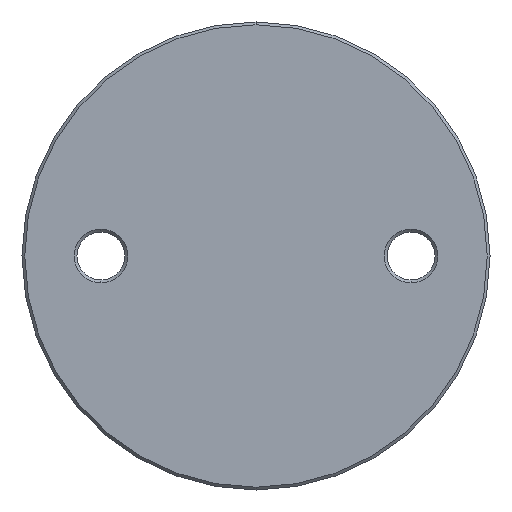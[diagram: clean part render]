
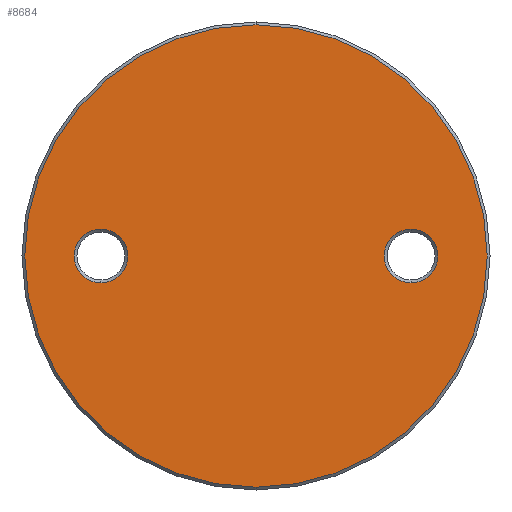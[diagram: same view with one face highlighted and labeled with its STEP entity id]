
A CAD part, front view. The second image highlights one B-rep face of the part: STEP entity #8684.
In plain terms, the highlighted planar face has unit normal (0, -1, 0).
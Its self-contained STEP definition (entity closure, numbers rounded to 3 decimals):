
#167 = EDGE_LOOP ( 'NONE', ( #3683, #472 ) ) ;
#465 = CIRCLE ( 'NONE', #9820, 41. ) ;
#472 = ORIENTED_EDGE ( 'NONE', *, *, #5691, .T. ) ;
#542 = VERTEX_POINT ( 'NONE', #5740 ) ;
#991 = CIRCLE ( 'NONE', #2733, 4.75 ) ;
#1003 = EDGE_LOOP ( 'NONE', ( #3837, #9707 ) ) ;
#1008 = ORIENTED_EDGE ( 'NONE', *, *, #3738, .T. ) ;
#1568 = VERTEX_POINT ( 'NONE', #7812 ) ;
#1743 = DIRECTION ( 'NONE',  ( 0., -1., 0. ) ) ;
#1946 = DIRECTION ( 'NONE',  ( 0., 0., -1. ) ) ;
#1964 = CARTESIAN_POINT ( 'NONE',  ( -27.5, -3., 4.75 ) ) ;
#2053 = DIRECTION ( 'NONE',  ( 0., 0., -1. ) ) ;
#2077 = VERTEX_POINT ( 'NONE', #2353 ) ;
#2125 = CARTESIAN_POINT ( 'NONE',  ( 27.5, -3., 0. ) ) ;
#2155 = DIRECTION ( 'NONE',  ( 0., 1., 0. ) ) ;
#2185 = CARTESIAN_POINT ( 'NONE',  ( -27.5, -3., 0. ) ) ;
#2204 = DIRECTION ( 'NONE',  ( 0., 0., -1. ) ) ;
#2353 = CARTESIAN_POINT ( 'NONE',  ( 0., -3., 41. ) ) ;
#2560 = VERTEX_POINT ( 'NONE', #9213 ) ;
#2605 = AXIS2_PLACEMENT_3D ( 'NONE', #9838, #4524, #2204 ) ;
#2733 = AXIS2_PLACEMENT_3D ( 'NONE', #4755, #5476, #9241 ) ;
#2812 = AXIS2_PLACEMENT_3D ( 'NONE', #8085, #4228, #1946 ) ;
#2861 = VERTEX_POINT ( 'NONE', #5117 ) ;
#3119 = CIRCLE ( 'NONE', #7944, 4.75 ) ;
#3631 = EDGE_LOOP ( 'NONE', ( #1008, #9935 ) ) ;
#3683 = ORIENTED_EDGE ( 'NONE', *, *, #6992, .T. ) ;
#3738 = EDGE_CURVE ( 'NONE', #2077, #2861, #6837, .T. ) ;
#3837 = ORIENTED_EDGE ( 'NONE', *, *, #9030, .T. ) ;
#4107 = DIRECTION ( 'NONE',  ( 0., 0., -1. ) ) ;
#4228 = DIRECTION ( 'NONE',  ( 0., 1., 0. ) ) ;
#4524 = DIRECTION ( 'NONE',  ( 0., -1., 0. ) ) ;
#4642 = CIRCLE ( 'NONE', #7674, 4.75 ) ;
#4702 = CIRCLE ( 'NONE', #2812, 4.75 ) ;
#4755 = CARTESIAN_POINT ( 'NONE',  ( -27.5, -3., 0. ) ) ;
#5117 = CARTESIAN_POINT ( 'NONE',  ( 0., -3., -41. ) ) ;
#5476 = DIRECTION ( 'NONE',  ( 0., 1., 0. ) ) ;
#5581 = CARTESIAN_POINT ( 'NONE',  ( 0., -3., 0. ) ) ;
#5691 = EDGE_CURVE ( 'NONE', #6038, #1568, #4642, .T. ) ;
#5740 = CARTESIAN_POINT ( 'NONE',  ( 27.5, -3., 4.75 ) ) ;
#5889 = FACE_BOUND ( 'NONE', #167, .T. ) ;
#6038 = VERTEX_POINT ( 'NONE', #1964 ) ;
#6683 = CARTESIAN_POINT ( 'NONE',  ( 0., -3., 0. ) ) ;
#6837 = CIRCLE ( 'NONE', #9718, 41. ) ;
#6992 = EDGE_CURVE ( 'NONE', #1568, #6038, #991, .T. ) ;
#7555 = DIRECTION ( 'NONE',  ( 0., 0., -1. ) ) ;
#7674 = AXIS2_PLACEMENT_3D ( 'NONE', #2185, #8361, #7555 ) ;
#7705 = FACE_OUTER_BOUND ( 'NONE', #3631, .T. ) ;
#7812 = CARTESIAN_POINT ( 'NONE',  ( -27.5, -3., -4.75 ) ) ;
#7944 = AXIS2_PLACEMENT_3D ( 'NONE', #2125, #2155, #9001 ) ;
#8085 = CARTESIAN_POINT ( 'NONE',  ( 27.5, -3., 0. ) ) ;
#8233 = DIRECTION ( 'NONE',  ( 0., -1., 0. ) ) ;
#8361 = DIRECTION ( 'NONE',  ( 0., 1., 0. ) ) ;
#8684 = ADVANCED_FACE ( 'NONE', ( #9146, #5889, #7705 ), #9052, .T. ) ;
#9001 = DIRECTION ( 'NONE',  ( 0., 0., -1. ) ) ;
#9030 = EDGE_CURVE ( 'NONE', #2560, #542, #4702, .T. ) ;
#9052 = PLANE ( 'NONE',  #2605 ) ;
#9146 = FACE_BOUND ( 'NONE', #1003, .T. ) ;
#9213 = CARTESIAN_POINT ( 'NONE',  ( 27.5, -3., -4.75 ) ) ;
#9215 = EDGE_CURVE ( 'NONE', #542, #2560, #3119, .T. ) ;
#9235 = EDGE_CURVE ( 'NONE', #2861, #2077, #465, .T. ) ;
#9241 = DIRECTION ( 'NONE',  ( 0., 0., -1. ) ) ;
#9707 = ORIENTED_EDGE ( 'NONE', *, *, #9215, .T. ) ;
#9718 = AXIS2_PLACEMENT_3D ( 'NONE', #5581, #1743, #4107 ) ;
#9820 = AXIS2_PLACEMENT_3D ( 'NONE', #6683, #8233, #2053 ) ;
#9838 = CARTESIAN_POINT ( 'NONE',  ( 0., -3., 41.5 ) ) ;
#9935 = ORIENTED_EDGE ( 'NONE', *, *, #9235, .T. ) ;
